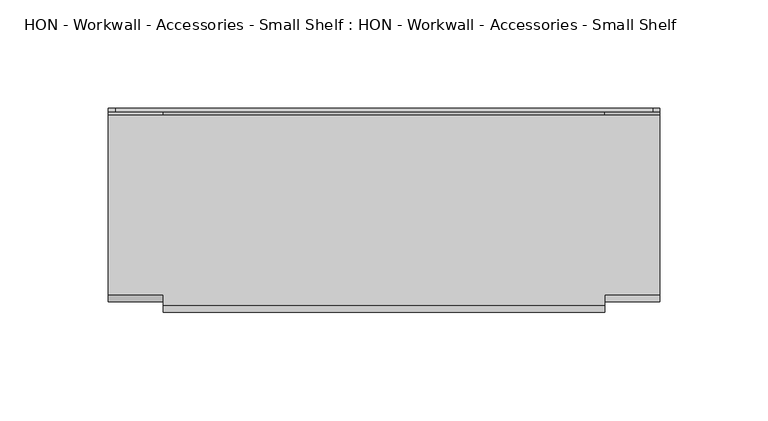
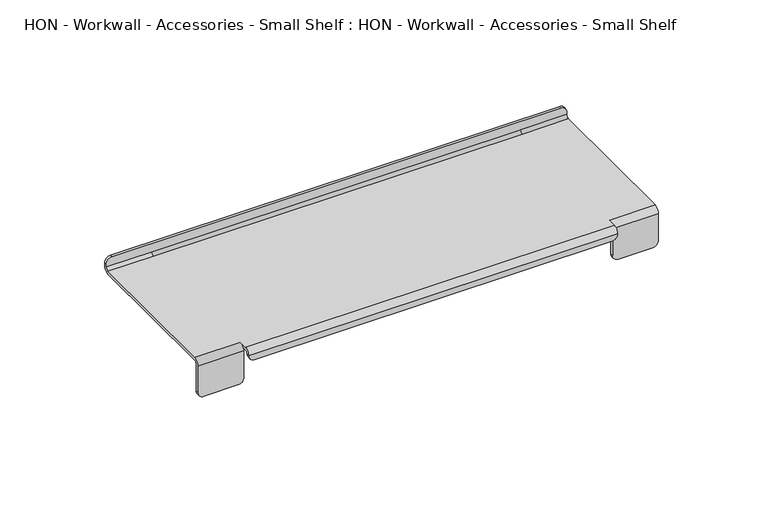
"""IFC4 building model written with IfcOpenShell, lengths in millimetres: furniture geometry, HON - Workwall - Accessories - Small Shelf : HON - Workwall - Accessories - Small Shelf."""

from ifc_helpers import new_model, si_unit, frame, origin, place, context, project, spatial, polyline, circle_curve, source, transform, mapped, element, save
from ifc_brep_helpers import plane_surface, cylinder_surface, revolved_surface, advanced_brep


def hon_workwall_accessories_small_shelf_hon_workwall_5849d4b8(model_context):
    return source(origin(), model_context, "Body", "AdvancedBrep", [
        advanced_brep(
        [(132.5980299, 5.2324, 21.9075), (132.5980299, 2.0574, 18.7325), (132.5980299, 2.0574, 3.175), (132.5980299, 3.6449, 3.175), (132.5980299, 3.6449, 18.7325), (132.5980299, 5.2324, 20.32), (132.5980299, 87.9983, 20.32), (132.5980299, 91.1733, 23.495), (132.5980299, 91.1733, 25.0825), (132.5980299, 89.5858, 25.0825), (132.5980299, 89.5858, 23.495), (132.5980299, 87.9983, 21.9075), (107.3250299, 3.6449, 18.7325), (107.3250299, 3.6449, 15.5560218), (107.3250299, 3.6449, 3.175), (107.3250299, 2.0574, 3.175), (107.3250299, 2.0574, 15.5560218), (107.3250299, 2.0574, 18.7325), (107.3250299, 2.4827693, 20.32), (107.3250299, 5.2324, 20.32), (107.3250299, 87.9983, 21.9075), (-96.1289701, 87.9983, 21.9075), (-121.4019701, 87.9983, 21.9075), (-121.4019701, 5.2324, 21.9075), (-96.1289701, 5.2324, 21.9075), (-96.1289701, 0.4318, 21.9075), (107.3250299, 0.4318, 21.9075), (107.3250299, 5.2324, 21.9075), (107.3250299, 89.5858, 23.495), (129.4230299, 89.5858, 28.2575), (-118.2269701, 89.5858, 28.2575), (-121.4019701, 89.5858, 25.0825), (-121.4019701, 89.5858, 23.495), (-96.1289701, 89.5858, 23.495), (107.3250299, 91.1733, 23.495), (-96.1289701, 91.1733, 23.495), (-121.4019701, 91.1733, 23.495), (-121.4019701, 91.1733, 25.0825), (-118.2269701, 91.1733, 28.2575), (129.4230299, 91.1733, 28.2575), (107.3250299, 87.9983, 20.32), (107.3250299, 0.4318, 20.32), (-96.1289701, 0.4318, 20.32), (-96.1289701, 2.4827693, 20.32), (-96.1289701, 5.2324, 20.32), (-121.4019701, 5.2324, 20.32), (-121.4019701, 87.9983, 20.32), (-96.1289701, 87.9983, 20.32), (129.4230299, 3.6449, 0.0), (110.5000299, 3.6449, 0.0), (129.4230299, 2.0574, 0.0), (110.5000299, 2.0574, 0.0), (-121.4019701, 3.6449, 3.175), (-118.2269701, 3.6449, 0.0), (-118.2269701, 2.0574, 0.0), (-121.4019701, 2.0574, 3.175), (-96.1289701, 2.0574, 3.175), (-99.3039701, 2.0574, 0.0), (-99.3039701, 3.6449, 0.0), (-96.1289701, 3.6449, 3.175), (-96.1289701, -1.1557, 18.7310218), (-93.0508417, -1.1557, 15.5575), (-93.0508417, -2.7432, 15.5575), (-96.1289701, -2.7432, 18.7310218), (107.3250295, -2.7432, 18.7325), (104.2469015, -2.7432, 15.5575), (104.2469015, -1.1557, 15.5575), (107.3250295, -1.1557, 18.7325), (-121.4019701, 3.6449, 18.7325), (-121.4019701, 2.0574, 18.7325), (-96.1289701, 2.0574, 18.7325), (-96.1289701, 2.0574, 15.5560218), (-96.1289701, 3.6449, 15.5560218), (-96.1289701, 3.6449, 18.7325)],
        [
            (0, 1, circle_curve(frame((132.5980299, 5.2324, 18.7325), z_axis=(1.0, 0.0, 0.0), x_axis=(0.0, -1.0, 0.0)), 3.175)),
            (1, 2),
            (2, 3),
            (3, 4),
            (4, 5, circle_curve(frame((132.5980299, 5.2324, 18.7325), z_axis=(-1.0, 0.0, 0.0), x_axis=(0.0, -1.0, 0.0)), 1.5875)),
            (5, 6),
            (6, 7, circle_curve(frame((132.5980299, 87.9983, 23.495), z_axis=(1.0, 0.0, 0.0), x_axis=(0.0, -1.0, 0.0)), 3.175)),
            (7, 8),
            (8, 9),
            (9, 10),
            (10, 11, circle_curve(frame((132.5980299, 87.9983, 23.495), z_axis=(-1.0, 0.0, 0.0), x_axis=(0.0, -1.0, 0.0)), 1.5875)),
            (11, 0),
            (12, 13),
            (13, 14),
            (14, 15),
            (15, 16),
            (16, 17),
            (17, 18, circle_curve(frame((107.3250299, 5.2324, 18.7325), z_axis=(-1.0, 0.0, 0.0), x_axis=(0.0, -1.0, 0.0)), 3.175)),
            (18, 19),
            (19, 12, circle_curve(frame((107.3250299, 5.2324, 18.7325), z_axis=(1.0, 0.0, 0.0), x_axis=(0.0, -1.0, 0.0)), 1.5875)),
            (11, 20),
            (20, 21),
            (21, 22),
            (22, 23),
            (23, 24),
            (24, 25),
            (25, 26),
            (26, 27),
            (27, 0),
            (10, 28),
            (28, 20, circle_curve(frame((107.3250299, 87.9983, 23.495), z_axis=(-1.0, 0.0, 0.0), x_axis=(0.0, -1.0, 0.0)), 1.5875)),
            (9, 29, circle_curve(frame((129.4230299, 89.5858, 25.0825), z_axis=(0.0, -1.0, 0.0), x_axis=(1.0, 0.0, 0.0)), 3.175)),
            (29, 30),
            (30, 31, circle_curve(frame((-118.2269701, 89.5858, 25.0825), z_axis=(0.0, -1.0, 0.0), x_axis=(1.0, 0.0, 0.0)), 3.175)),
            (31, 32),
            (32, 33),
            (33, 28),
            (34, 35),
            (35, 36),
            (36, 37),
            (37, 38, circle_curve(frame((-118.2269701, 91.1733, 25.0825), z_axis=(0.0, 1.0, 0.0), x_axis=(1.0, 0.0, 0.0)), 3.175)),
            (38, 39),
            (39, 8, circle_curve(frame((129.4230299, 91.1733, 25.0825), z_axis=(0.0, 1.0, 0.0), x_axis=(1.0, 0.0, 0.0)), 3.175)),
            (7, 34),
            (6, 40),
            (40, 34, circle_curve(frame((107.3250299, 87.9983, 23.495), z_axis=(1.0, 0.0, 0.0), x_axis=(0.0, -1.0, 0.0)), 3.175)),
            (5, 19),
            (18, 41),
            (41, 42),
            (42, 43),
            (43, 44),
            (44, 45),
            (45, 46),
            (46, 47),
            (47, 40),
            (4, 12),
            (3, 48, circle_curve(frame((129.4230299, 3.6449, 3.175), z_axis=(0.0, 1.0, 0.0), x_axis=(1.0, 0.0, 0.0)), 3.175)),
            (48, 49),
            (49, 14, circle_curve(frame((110.5000299, 3.6449, 3.175), z_axis=(0.0, 1.0, 0.0), x_axis=(1.0, 0.0, 0.0)), 3.175)),
            (48, 50),
            (50, 51),
            (51, 49),
            (15, 51, circle_curve(frame((110.5000299, 2.0574, 3.175), z_axis=(0.0, -1.0, 0.0), x_axis=(1.0, 0.0, 0.0)), 3.175)),
            (50, 2, circle_curve(frame((129.4230299, 2.0574, 3.175), z_axis=(0.0, -1.0, 0.0), x_axis=(1.0, 0.0, 0.0)), 3.175)),
            (1, 17),
            (27, 18, circle_curve(frame((107.3250299, 5.2324, 18.7325), z_axis=(1.0, 0.0, 0.0), x_axis=(0.0, -1.0, 0.0)), 3.175)),
            (37, 31),
            (30, 38),
            (29, 39),
            (52, 53, circle_curve(frame((-118.2269701, 3.6449, 3.175), z_axis=(0.0, -1.0, 0.0), x_axis=(1.0, 0.0, 0.0)), 3.175)),
            (53, 54),
            (54, 55, circle_curve(frame((-118.2269701, 2.0574, 3.175), z_axis=(0.0, 1.0, 0.0), x_axis=(1.0, 0.0, 0.0)), 3.175)),
            (55, 52),
            (56, 57, circle_curve(frame((-99.3039701, 2.0574, 3.175), z_axis=(0.0, 1.0, 0.0), x_axis=(1.0, 0.0, 0.0)), 3.175)),
            (57, 58),
            (58, 59, circle_curve(frame((-99.3039701, 3.6449, 3.175), z_axis=(0.0, -1.0, 0.0), x_axis=(1.0, 0.0, 0.0)), 3.175)),
            (59, 56),
            (60, 61, circle_curve(frame((-92.9539701, -1.1557, 18.7310218), z_axis=(0.0, -1.0, 0.0), x_axis=(1.0, 0.0, 0.0)), 3.175)),
            (61, 62),
            (62, 63, circle_curve(frame((-92.9539701, -2.7432, 18.7310218), z_axis=(0.0, 1.0, 0.0), x_axis=(1.0, 0.0, 0.0)), 3.175)),
            (63, 60),
            (64, 65, circle_curve(frame((104.1500299, -2.7432, 18.7310218), z_axis=(0.0, 1.0, 0.0), x_axis=(1.0, 0.0, 0.0)), 3.175)),
            (65, 66),
            (66, 67, circle_curve(frame((104.1500299, -1.1557, 18.7310218), z_axis=(0.0, -1.0, 0.0), x_axis=(1.0, 0.0, 0.0)), 3.175)),
            (67, 64),
            (26, 64, circle_curve(frame((107.3250299, 0.4318, 18.7325), z_axis=(1.0, 0.0, 0.0), x_axis=(0.0, -1.0, 0.0)), 3.175)),
            (67, 41, circle_curve(frame((107.3250299, 0.4318, 18.7325), z_axis=(-1.0, 0.0, 0.0), x_axis=(0.0, -1.0, 0.0)), 1.5875)),
            (24, 43, circle_curve(frame((-96.1289701, 5.2324, 18.7325), z_axis=(1.0, 0.0, 0.0), x_axis=(0.0, -1.0, 0.0)), 3.175)),
            (42, 60, circle_curve(frame((-96.1289701, 0.4318, 18.7325), z_axis=(1.0, 0.0, 0.0), x_axis=(0.0, -1.0, 0.0)), 1.5875)),
            (63, 25, circle_curve(frame((-96.1289701, 0.4318, 18.7325), z_axis=(-1.0, 0.0, 0.0), x_axis=(0.0, -1.0, 0.0)), 3.175)),
            (33, 21, circle_curve(frame((-96.1289701, 87.9983, 23.495), z_axis=(-1.0, 0.0, 0.0), x_axis=(0.0, -1.0, 0.0)), 1.5875)),
            (47, 35, circle_curve(frame((-96.1289701, 87.9983, 23.495), z_axis=(1.0, 0.0, 0.0), x_axis=(0.0, -1.0, 0.0)), 3.175)),
            (67, 60),
            (66, 61),
            (62, 65),
            (64, 63),
            (22, 32, circle_curve(frame((-121.4019701, 87.9983, 23.495), z_axis=(1.0, 0.0, 0.0), x_axis=(0.0, -1.0, 0.0)), 1.5875)),
            (36, 46, circle_curve(frame((-121.4019701, 87.9983, 23.495), z_axis=(-1.0, 0.0, 0.0), x_axis=(0.0, -1.0, 0.0)), 3.175)),
            (45, 68, circle_curve(frame((-121.4019701, 5.2324, 18.7325), z_axis=(1.0, 0.0, 0.0), x_axis=(0.0, -1.0, 0.0)), 1.5875)),
            (68, 52),
            (55, 69),
            (69, 23, circle_curve(frame((-121.4019701, 5.2324, 18.7325), z_axis=(-1.0, 0.0, 0.0), x_axis=(0.0, -1.0, 0.0)), 3.175)),
            (43, 70, circle_curve(frame((-96.1289701, 5.2324, 18.7325), z_axis=(1.0, 0.0, 0.0), x_axis=(0.0, -1.0, 0.0)), 3.175)),
            (70, 71),
            (71, 56),
            (59, 72),
            (72, 73),
            (73, 44, circle_curve(frame((-96.1289701, 5.2324, 18.7325), z_axis=(-1.0, 0.0, 0.0), x_axis=(0.0, -1.0, 0.0)), 1.5875)),
            (73, 68),
            (58, 53),
            (57, 54),
            (70, 69),
        ],
        [
            plane_surface(frame((132.5980299, 50.8, 21.9075), z_axis=(1.0, 0.0, 0.0), x_axis=(0.0, 1.0, 0.0))),
            plane_surface(frame((107.3250299, 50.8, 21.9075), z_axis=(-1.0, 0.0, 0.0), x_axis=(0.0, -1.0, 0.0))),
            plane_surface(frame((132.5980299, 5.2324, 21.9075), z_axis=(0.0, 0.0, 1.0), x_axis=(-1.0, 0.0, 0.0))),
            revolved_surface(polyline([(107.3250299, 86.4108, 23.495), (132.5980299, 86.4108, 23.495)]), (107.3250299, 87.9983, 23.495), (-1.0, 0.0, 0.0)),
            plane_surface(frame((132.5980299, 89.5858, 23.495), z_axis=(0.0, -1.0, 0.0), x_axis=(-1.0, 0.0, 0.0))),
            plane_surface(frame((132.5980299, 91.1733, 29.7336597), z_axis=(0.0, 1.0, 0.0), x_axis=(-1.0, 0.0, 0.0))),
            cylinder_surface(frame((107.3250299, 87.9983, 23.495), z_axis=(1.0, 0.0, 0.0), x_axis=(0.0, -1.0, 0.0)), 3.175),
            plane_surface(frame((132.5980299, 87.9983, 20.32), z_axis=(0.0, 0.0, -1.0), x_axis=(-1.0, 0.0, 0.0))),
            revolved_surface(polyline([(107.3250299, 3.6449000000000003, 18.7325), (132.5980299, 3.6449000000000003, 18.7325)]), (107.3250299, 5.2324, 18.7325), (-1.0, 0.0, 0.0)),
            plane_surface(frame((132.5980299, 3.6449, 18.7325), z_axis=(0.0, 1.0, 0.0), x_axis=(-1.0, 0.0, 0.0))),
            plane_surface(frame((132.5980299, 3.6449, 0.0), z_axis=(0.0, 0.0, -1.0), x_axis=(-1.0, 0.0, 0.0))),
            plane_surface(frame((132.5980299, 2.0574, 0.0), z_axis=(0.0, -1.0, 0.0), x_axis=(-1.0, 0.0, 0.0))),
            cylinder_surface(frame((107.3250299, 5.2324, 18.7325), z_axis=(1.0, 0.0, 0.0), x_axis=(0.0, -1.0, 0.0)), 3.175),
            cylinder_surface(frame((-118.2269701, -25.4, 25.0825), z_axis=(0.0, -1.0, 0.0), x_axis=(1.0, 0.0, 0.0)), 3.175),
            plane_surface(frame((-118.2269701, 101.6, 28.2575), z_axis=(0.0, 0.0, 1.0), x_axis=(0.0, -1.0, 0.0))),
            cylinder_surface(frame((129.4230299, -25.4, 25.0825), z_axis=(0.0, -1.0, 0.0), x_axis=(1.0, 0.0, 0.0)), 3.175),
            cylinder_surface(frame((-118.2269701, -25.4, 3.175), z_axis=(0.0, -1.0, 0.0), x_axis=(1.0, 0.0, 0.0)), 3.175),
            cylinder_surface(frame((129.4230299, -25.4, 3.175), z_axis=(0.0, -1.0, 0.0), x_axis=(1.0, 0.0, 0.0)), 3.175),
            cylinder_surface(frame((-99.3039701, 0.0, 3.175), z_axis=(0.0, -1.0, 0.0), x_axis=(1.0, 0.0, 0.0)), 3.175),
            cylinder_surface(frame((-92.9539701, 0.0, 18.7310218), z_axis=(0.0, -1.0, 0.0), x_axis=(1.0, 0.0, 0.0)), 3.175),
            cylinder_surface(frame((110.5000299, 0.0, 3.175), z_axis=(0.0, -1.0, 0.0), x_axis=(1.0, 0.0, 0.0)), 3.175),
            cylinder_surface(frame((104.1500299, 0.0, 18.7310218), z_axis=(0.0, -1.0, 0.0), x_axis=(1.0, 0.0, 0.0)), 3.175),
            plane_surface(frame((107.3250299, 50.8, 21.9075), z_axis=(1.0, 0.0, 0.0), x_axis=(0.0, 1.0, 0.0))),
            plane_surface(frame((-96.1289701, 50.8, 21.9075), z_axis=(-1.0, 0.0, 0.0), x_axis=(0.0, -1.0, 0.0))),
            revolved_surface(polyline([(-96.1289701, 86.4108, 23.495), (107.3250299, 86.4108, 23.495)]), (-96.1289701, 87.9983, 23.495), (-1.0, 0.0, 0.0)),
            cylinder_surface(frame((-96.1289701, 87.9983, 23.495), z_axis=(1.0, 0.0, 0.0), x_axis=(0.0, -1.0, 0.0)), 3.175),
            revolved_surface(polyline([(-96.1289701, -1.1557, 18.7325), (107.3250299, -1.1557, 18.7325)]), (-96.1289701, 0.4318, 18.7325), (-1.0, 0.0, 0.0)),
            plane_surface(frame((107.3250299, -1.1557, 18.7325), z_axis=(0.0, 1.0, 0.0), x_axis=(-1.0, 0.0, 0.0))),
            plane_surface(frame((107.3250299, -2.7432, 15.5575), z_axis=(0.0, -1.0, 0.0), x_axis=(-1.0, 0.0, 0.0))),
            cylinder_surface(frame((-96.1289701, 0.4318, 18.7325), z_axis=(1.0, 0.0, 0.0), x_axis=(0.0, -1.0, 0.0)), 3.175),
            plane_surface(frame((107.3250299, -1.1557, 15.5575), z_axis=(0.0, 0.0, -1.0), x_axis=(-1.0, 0.0, 0.0))),
            plane_surface(frame((-121.4019701, 2.0574, 18.7325), z_axis=(-1.0, 0.0, 0.0), x_axis=(0.0, 0.0, -1.0))),
            plane_surface(frame((-96.1289701, 2.0574, 18.7325), z_axis=(1.0, 0.0, 0.0), x_axis=(0.0, 0.0, 1.0))),
            revolved_surface(polyline([(-96.1289701, 86.4108, 23.495), (-121.4019701, 86.4108, 23.495)]), (-96.1289701, 87.9983, 23.495), (1.0, 0.0, 0.0)),
            cylinder_surface(frame((-96.1289701, 87.9983, 23.495), z_axis=(-1.0, 0.0, 0.0), x_axis=(0.0, -1.0, 0.0)), 3.175),
            revolved_surface(polyline([(-96.1289701, 3.6449000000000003, 18.7325), (-121.4019701, 3.6449000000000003, 18.7325)]), (-96.1289701, 5.2324, 18.7325), (1.0, 0.0, 0.0)),
            plane_surface(frame((-121.4019701, 3.6449, 0.0), z_axis=(0.0, 1.0, 0.0), x_axis=(1.0, 0.0, 0.0))),
            plane_surface(frame((-121.4019701, 2.0574, 0.0), z_axis=(0.0, 0.0, -1.0), x_axis=(1.0, 0.0, 0.0))),
            plane_surface(frame((-121.4019701, 2.0574, 18.7325), z_axis=(0.0, -1.0, 0.0), x_axis=(1.0, 0.0, 0.0))),
            cylinder_surface(frame((-96.1289701, 5.2324, 18.7325), z_axis=(-1.0, 0.0, 0.0), x_axis=(0.0, -1.0, 0.0)), 3.175),
        ],
        [
            (0, [[1, 2, 3, 4, 5, 6, 7, 8, 9, 10, 11, 12]]),
            (1, [[13, 14, 15, 16, 17, 18, 19, 20]]),
            (2, [[21, 22, 23, 24, 25, 26, 27, 28, 29, -12]]),
            (3, [[30, 31, -21, -11]]),
            (4, [[-10, 32, 33, 34, 35, 36, 37, -30]]),
            (5, [[38, 39, 40, 41, 42, 43, -8, 44]]),
            (6, [[45, 46, -44, -7]]),
            (7, [[47, -19, 48, 49, 50, 51, 52, 53, 54, 55, -45, -6]]),
            (8, [[56, -20, -47, -5]]),
            (9, [[-4, 57, 58, 59, -14, -13, -56]]),
            (10, [[60, 61, 62, -58]]),
            (11, [[-17, -16, 63, -61, 64, -2, 65]]),
            (12, [[-29, 66, -18, -65, -1]]),
            (13, [[-41, 67, -34, 68]]),
            (14, [[-33, 69, -42, -68]]),
            (15, [[-32, -9, -43, -69]]),
            (16, [[70, 71, 72, 73]]),
            (17, [[-64, -60, -57, -3]]),
            (18, [[74, 75, 76, 77]]),
            (19, [[78, 79, 80, 81]]),
            (20, [[-59, -62, -63, -15]]),
            (21, [[82, 83, 84, 85]]),
            (22, [[-48, -66, -28, 86, -85, 87]]),
            (23, [[-26, 88, -50, 89, -81, 90]]),
            (24, [[-31, -37, 91, -22]]),
            (25, [[-46, -55, 92, -38]]),
            (26, [[93, -89, -49, -87]]),
            (27, [[-84, 94, -78, -93]]),
            (28, [[-80, 95, -82, 96]]),
            (29, [[-27, -90, -96, -86]]),
            (30, [[-79, -94, -83, -95]]),
            (31, [[-24, 97, -35, -67, -40, 98, -53, 99, 100, -73, 101, 102]]),
            (32, [[-51, 103, 104, 105, -77, 106, 107, 108]]),
            (33, [[-23, -91, -36, -97]]),
            (34, [[-39, -92, -54, -98]]),
            (35, [[-52, -108, 109, -99]]),
            (36, [[-107, -106, -76, 110, -70, -100, -109]]),
            (37, [[-75, 111, -71, -110]]),
            (38, [[-101, -72, -111, -74, -105, -104, 112]]),
            (39, [[-112, -103, -88, -25, -102]]),
        ],
    ),
    ])


if __name__ == "__main__":
    model = new_model("IFC4")
    model_context = context("Model", 3, world=origin())
    ifc_project = project(units=[si_unit("LENGTHUNIT", "METRE", prefix="MILLI")], contexts=[model_context])
    site = spatial("IfcSite", under=ifc_project)
    building = spatial("IfcBuilding", under=site)
    placement = place(None, origin())
    hon_workwall_accessories_small_shelf_hon_workwall_shape = hon_workwall_accessories_small_shelf_hon_workwall_5849d4b8(model_context)
    element("IfcFurniture", 1, ObjectType="HON - Workwall - Accessories - Small Shelf : HON - Workwall - Accessories - Small Shelf", at=placement, inside=building, context=model_context, shape_type="MappedRepresentation", body=[
        mapped(hon_workwall_accessories_small_shelf_hon_workwall_shape, transform((0.0, 0.0, 0.0), x_axis=(1.0, 0.0, 0.0), y_axis=(0.0, 1.0, 0.0), z_axis=(0.0, 0.0, 1.0))),
    ])
    save(model, "model.ifc")
